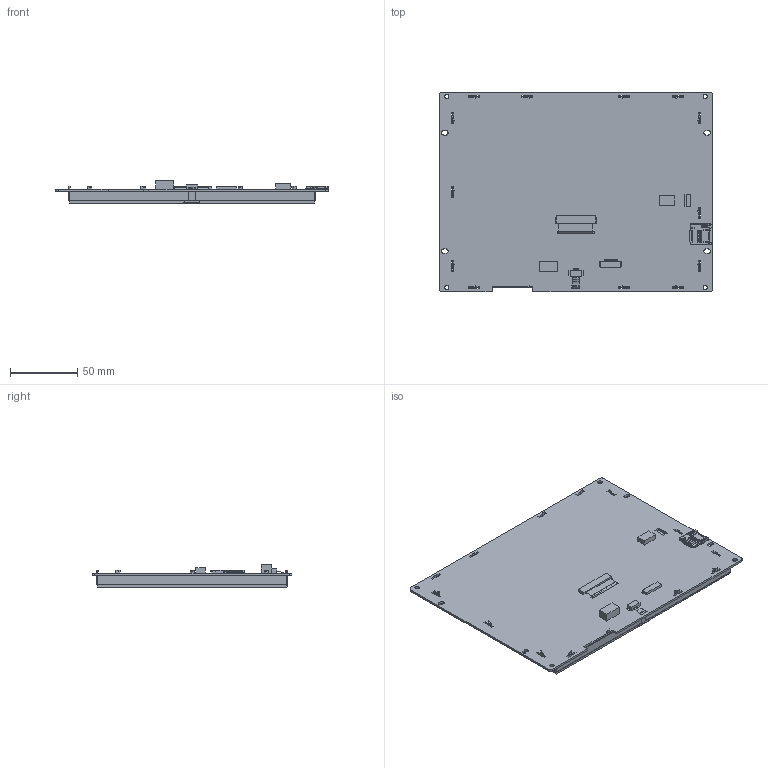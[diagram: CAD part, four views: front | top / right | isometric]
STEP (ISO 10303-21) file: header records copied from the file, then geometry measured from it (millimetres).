
FILE_DESCRIPTION(/* description */ (''),/* implementation_level */ '2;1');
FILE_NAME(/* name */ 'SDWb080T84T_stp.stp',/* time_stamp */ '2024-06-07T18:34:12+08:00',/* author */ (''),/* organization */ (''),/* preprocessor_version */ 'ST-DEVELOPER v16',/* originating_system */ 'SIEMENS PLM Software NX 10.0',/* authorisation */ '');
FILE_SCHEMA (('AP203_CONFIGURATION_CONTROLLED_3D_DESIGN_OF_MECHANICAL_PARTS_AND_ASSEMBLIES_MIM_LF { 1 0 10303 403 2 1 2}'));
Length unit declared in the file: millimetre
Products named in the file (1): SDWb080T84T_stp
Bounding box: 203.02 x 148.8 x 16.41 mm (x, y, z)
Volume: 94867.3 mm3; surface area: 143277.1 mm2
Topology: 16 solids, 16 shells, 1435 faces, 4072 edges, 2645 vertices
Faces by surface type: plane 1101, cylinder 333, cone 1
Full cylindrical faces by diameter (mm): 3.2 x4
Entity records: 47945 total; most frequent: CARTESIAN_POINT 8257, ORIENTED_EDGE 8136, DIRECTION 7586, EDGE_CURVE 4068, LINE 3382, VECTOR 3382, VERTEX_POINT 2645, AXIS2_PLACEMENT_3D 2102
